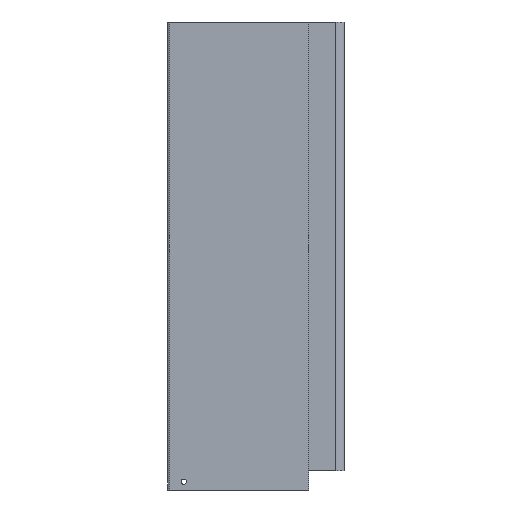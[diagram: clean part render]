
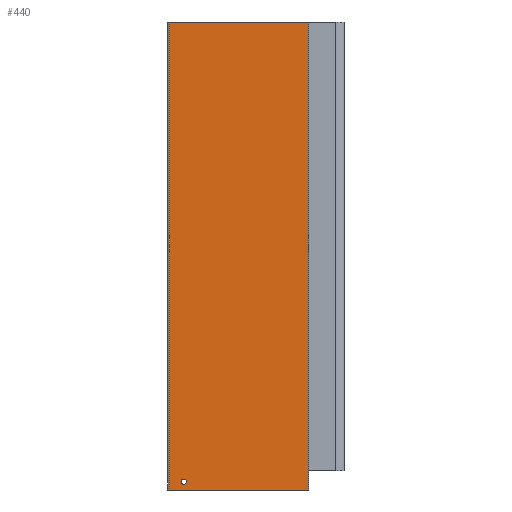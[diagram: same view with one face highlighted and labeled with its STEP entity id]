
A CAD part, left-side view. The second image highlights one B-rep face of the part: STEP entity #440.
In plain terms, the highlighted planar face has unit normal (-1, 0, 0).
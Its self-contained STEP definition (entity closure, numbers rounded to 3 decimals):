
#5 = ORIENTED_EDGE ( 'NONE', *, *, #306, .F. ) ;
#27 = AXIS2_PLACEMENT_3D ( 'NONE', #675, #670, #668 ) ;
#41 = ORIENTED_EDGE ( 'NONE', *, *, #423, .F. ) ;
#60 = DIRECTION ( 'NONE',  ( 0., 1., 0. ) ) ;
#64 = CARTESIAN_POINT ( 'NONE',  ( -8., 1., -442. ) ) ;
#80 = CARTESIAN_POINT ( 'NONE',  ( -8., 14.6, -447.5 ) ) ;
#83 = LINE ( 'NONE', #80, #830 ) ;
#114 = DIRECTION ( 'NONE',  ( 0., -1., 0. ) ) ;
#116 = PLANE ( 'NONE',  #816 ) ;
#130 = CARTESIAN_POINT ( 'NONE',  ( -8., 14.6, -599.266 ) ) ;
#145 = CIRCLE ( 'NONE', #27, 2.5 ) ;
#162 = EDGE_CURVE ( 'NONE', #536, #717, #293, .T. ) ;
#172 = LINE ( 'NONE', #677, #200 ) ;
#181 = VERTEX_POINT ( 'NONE', #64 ) ;
#196 = DIRECTION ( 'NONE',  ( 1., 0., 0. ) ) ;
#200 = VECTOR ( 'NONE', #688, 1000. ) ;
#237 = LINE ( 'NONE', #527, #567 ) ;
#255 = CARTESIAN_POINT ( 'NONE',  ( -8., -118.5, -599.266 ) ) ;
#267 = AXIS2_PLACEMENT_3D ( 'NONE', #292, #288, #272 ) ;
#272 = DIRECTION ( 'NONE',  ( 0., -1., 0. ) ) ;
#279 = VECTOR ( 'NONE', #674, 1000. ) ;
#288 = DIRECTION ( 'NONE',  ( -1., 0., 0. ) ) ;
#292 = CARTESIAN_POINT ( 'NONE',  ( -8., 1., -439.5 ) ) ;
#293 = LINE ( 'NONE', #255, #279 ) ;
#301 = VERTEX_POINT ( 'NONE', #708 ) ;
#304 = DIRECTION ( 'NONE',  ( 0., -1., 0. ) ) ;
#306 = EDGE_CURVE ( 'NONE', #181, #342, #145, .T. ) ;
#313 = EDGE_CURVE ( 'NONE', #301, #695, #172, .T. ) ;
#342 = VERTEX_POINT ( 'NONE', #664 ) ;
#373 = EDGE_LOOP ( 'NONE', ( #651, #445, #692, #880 ) ) ;
#423 = EDGE_CURVE ( 'NONE', #342, #181, #519, .T. ) ;
#440 = ADVANCED_FACE ( 'NONE', ( #691, #636 ), #116, .F. ) ;
#443 = EDGE_CURVE ( 'NONE', #536, #301, #83, .T. ) ;
#445 = ORIENTED_EDGE ( 'NONE', *, *, #622, .F. ) ;
#497 = EDGE_LOOP ( 'NONE', ( #41, #5 ) ) ;
#519 = CIRCLE ( 'NONE', #267, 2.5 ) ;
#527 = CARTESIAN_POINT ( 'NONE',  ( -8., 14.6, 0. ) ) ;
#536 = VERTEX_POINT ( 'NONE', #558 ) ;
#558 = CARTESIAN_POINT ( 'NONE',  ( -8., -118.5, -447.5 ) ) ;
#567 = VECTOR ( 'NONE', #304, 1000. ) ;
#622 = EDGE_CURVE ( 'NONE', #695, #717, #237, .T. ) ;
#636 = FACE_OUTER_BOUND ( 'NONE', #373, .T. ) ;
#651 = ORIENTED_EDGE ( 'NONE', *, *, #162, .T. ) ;
#653 = CARTESIAN_POINT ( 'NONE',  ( -8., -118.5, 0. ) ) ;
#664 = CARTESIAN_POINT ( 'NONE',  ( -8., 1., -437. ) ) ;
#668 = DIRECTION ( 'NONE',  ( 0., -1., 0. ) ) ;
#670 = DIRECTION ( 'NONE',  ( -1., 0., 0. ) ) ;
#674 = DIRECTION ( 'NONE',  ( 0., 0., 1. ) ) ;
#675 = CARTESIAN_POINT ( 'NONE',  ( -8., 1., -439.5 ) ) ;
#677 = CARTESIAN_POINT ( 'NONE',  ( -8., 14.6, -599.266 ) ) ;
#688 = DIRECTION ( 'NONE',  ( 0., 0., 1. ) ) ;
#691 = FACE_BOUND ( 'NONE', #497, .T. ) ;
#692 = ORIENTED_EDGE ( 'NONE', *, *, #313, .F. ) ;
#695 = VERTEX_POINT ( 'NONE', #761 ) ;
#708 = CARTESIAN_POINT ( 'NONE',  ( -8., 14.6, -447.5 ) ) ;
#717 = VERTEX_POINT ( 'NONE', #653 ) ;
#761 = CARTESIAN_POINT ( 'NONE',  ( -8., 14.6, 0. ) ) ;
#816 = AXIS2_PLACEMENT_3D ( 'NONE', #130, #196, #114 ) ;
#830 = VECTOR ( 'NONE', #60, 1000. ) ;
#880 = ORIENTED_EDGE ( 'NONE', *, *, #443, .F. ) ;
